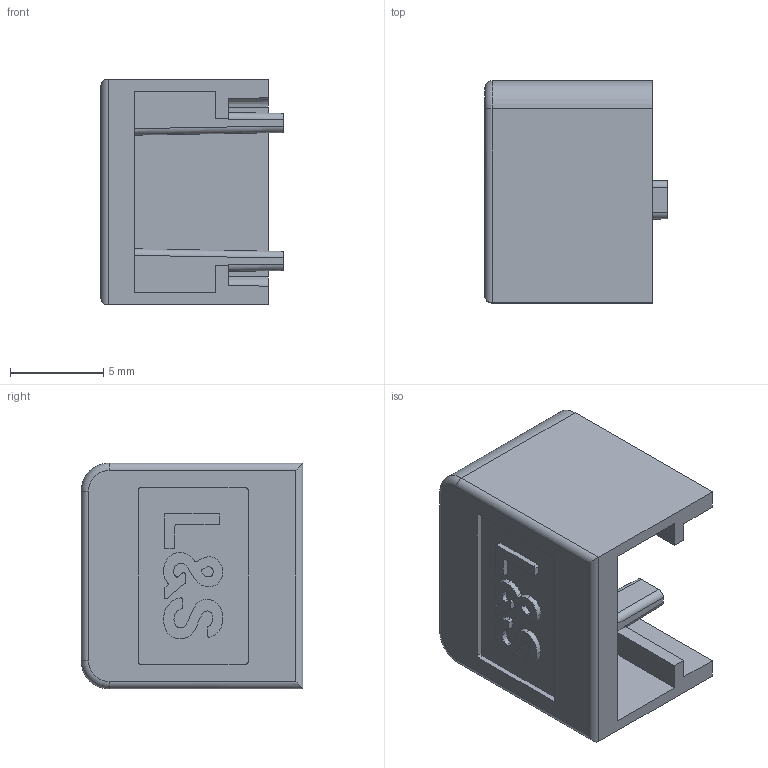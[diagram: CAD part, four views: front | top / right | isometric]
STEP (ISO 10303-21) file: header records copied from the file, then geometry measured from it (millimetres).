
FILE_DESCRIPTION (( 'STEP AP214' ), '1' );
FILE_NAME ('2000828 Porto Mini 6_Endkappe.STEP', '2022-12-01T11:27:19', ( '' ), ( '' ), 'SwSTEP 2.0', 'SolidWorks 2021', '' );
FILE_SCHEMA (( 'AUTOMOTIVE_DESIGN' ));
Length unit declared in the file: millimetre
Products named in the file (1): 2000828 Porto Mini 6_Endkappe
Bounding box: 9.8 x 11.9 x 12.1 mm (x, y, z)
Volume: 530.8 mm3; surface area: 981.5 mm2
Topology: 1 solids, 1 shells, 121 faces, 336 edges, 222 vertices
Faces by surface type: plane 53, cylinder 38, bspline 26, cone 2, torus 2
Entity records: 4034 total; most frequent: CARTESIAN_POINT 1072, ORIENTED_EDGE 672, DIRECTION 520, EDGE_CURVE 336, VERTEX_POINT 222, LINE 204, VECTOR 204, AXIS2_PLACEMENT_3D 158
